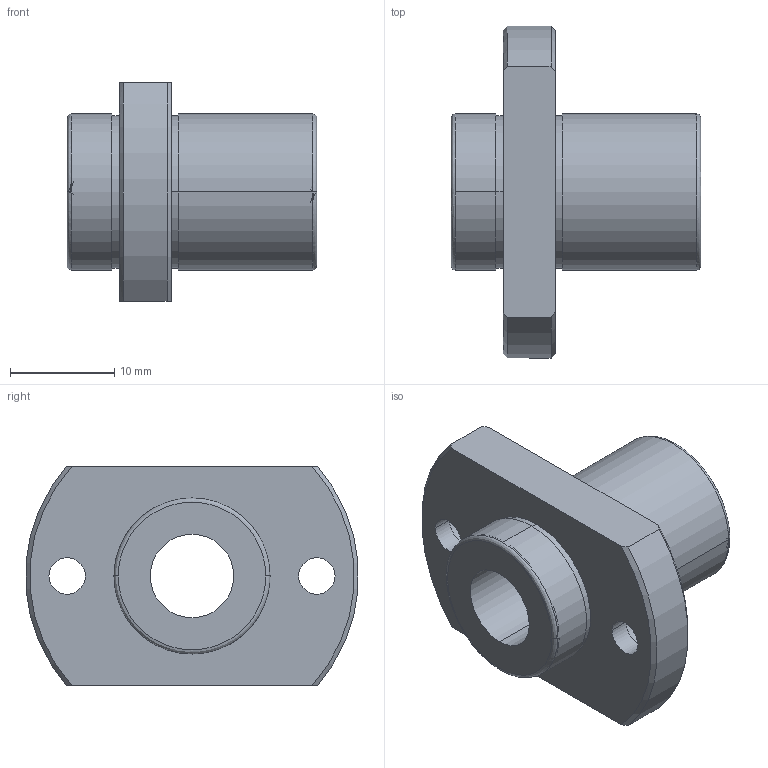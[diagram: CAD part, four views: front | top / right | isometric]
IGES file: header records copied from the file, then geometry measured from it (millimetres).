
Start section: 3D InterOp IGES (Version 21 0 1), Spatial Corp. Copyright (c) 1999-2007.
Global section: file name: NFIO8.igs; native system: Spatial Corp.; preprocessor: 3D InterOp GENERIC/IGES 3.0; author: Noname; organization: Noname; date: 20220307.111154; units: millimetre
Bounding box: 24 x 31.9 x 21 mm (x, y, z)
Surface area: 3549.2 mm2 (no closed solid volume)
Topology: 0 solids, 0 shells, 38 faces, 184 edges, 180 vertices
Faces by surface type: revolution 28, extrusion 10
